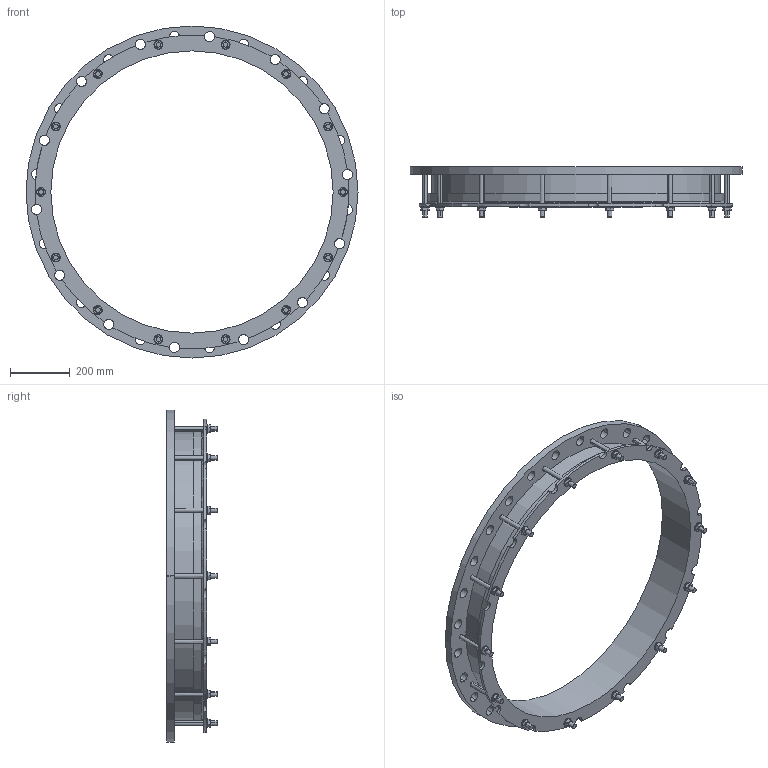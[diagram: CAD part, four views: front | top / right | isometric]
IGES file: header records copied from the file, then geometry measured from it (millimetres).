
Start section:  PTC IGES file: 945x900pn10_14not.igs
Global section: file name: 945x900pn10_14not.igs; native system: Creo Parametric by PTC Inc.; preprocessor: 2016130; author: mfairey; organization: Unknown; date: 20190117.103536; units: millimetre
Bounding box: 1115 x 169 x 1115 mm (x, y, z)
Surface area: 1722784.9 mm2 (no closed solid volume)
Topology: 0 solids, 0 shells, 310 faces, 1664 edges, 1664 vertices
Faces by surface type: revolution 180, bspline 130
